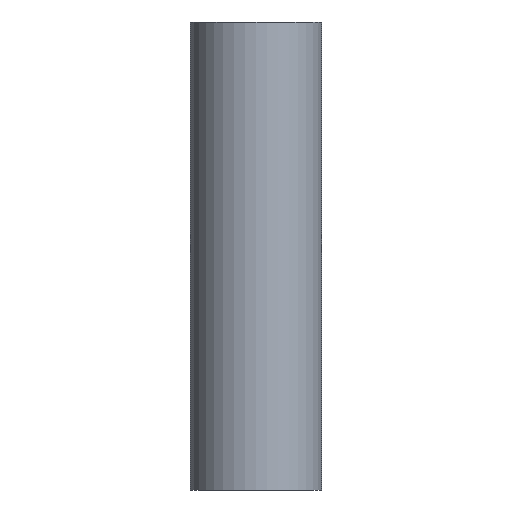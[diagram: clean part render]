
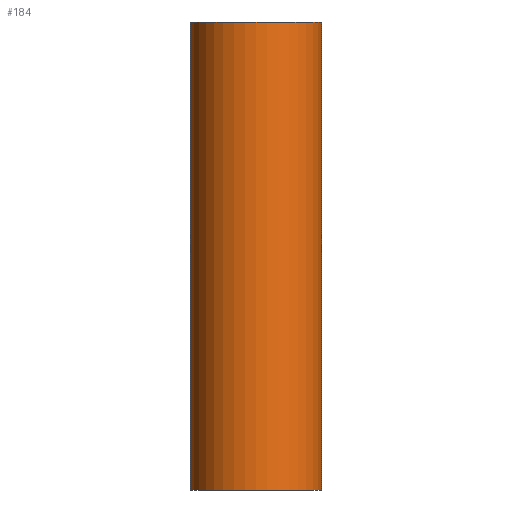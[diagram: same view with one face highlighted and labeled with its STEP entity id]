
A CAD part, front view. The second image highlights one B-rep face of the part: STEP entity #184.
In plain terms, the highlighted cylindrical face has radius 14 mm (diameter 28 mm), a partial arc.
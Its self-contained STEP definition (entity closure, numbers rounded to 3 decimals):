
#1 = EDGE_CURVE ( 'NONE', #347, #356, #232, .T. ) ;
#6 = DIRECTION ( 'NONE',  ( 0., 0., -1. ) ) ;
#29 = ORIENTED_EDGE ( 'NONE', *, *, #138, .F. ) ;
#31 = CARTESIAN_POINT ( 'NONE',  ( 0., 0., 0. ) ) ;
#38 = CIRCLE ( 'NONE', #73, 14. ) ;
#50 = EDGE_CURVE ( 'NONE', #351, #347, #371, .T. ) ;
#65 = VECTOR ( 'NONE', #85, 1000. ) ;
#73 = AXIS2_PLACEMENT_3D ( 'NONE', #121, #182, #180 ) ;
#85 = DIRECTION ( 'NONE',  ( 0., 0., -1. ) ) ;
#86 = EDGE_CURVE ( 'NONE', #342, #356, #312, .T. ) ;
#109 = EDGE_LOOP ( 'NONE', ( #162, #29, #289, #308 ) ) ;
#121 = CARTESIAN_POINT ( 'NONE',  ( 0., 0., 100. ) ) ;
#138 = EDGE_CURVE ( 'NONE', #351, #342, #38, .T. ) ;
#141 = DIRECTION ( 'NONE',  ( 0., 0., -1. ) ) ;
#153 = CARTESIAN_POINT ( 'NONE',  ( 14., 0., 0. ) ) ;
#162 = ORIENTED_EDGE ( 'NONE', *, *, #86, .F. ) ;
#165 = FACE_OUTER_BOUND ( 'NONE', #109, .T. ) ;
#173 = CARTESIAN_POINT ( 'NONE',  ( -14., 0., 100. ) ) ;
#179 = DIRECTION ( 'NONE',  ( -1., 0., 0. ) ) ;
#180 = DIRECTION ( 'NONE',  ( 1., 0., 0. ) ) ;
#182 = DIRECTION ( 'NONE',  ( 0., 0., 1. ) ) ;
#184 = ADVANCED_FACE ( 'NONE', ( #165 ), #228, .T. ) ;
#228 = CYLINDRICAL_SURFACE ( 'NONE', #368, 14. ) ;
#229 = AXIS2_PLACEMENT_3D ( 'NONE', #31, #234, #350 ) ;
#232 = CIRCLE ( 'NONE', #229, 14. ) ;
#234 = DIRECTION ( 'NONE',  ( 0., 0., 1. ) ) ;
#289 = ORIENTED_EDGE ( 'NONE', *, *, #50, .T. ) ;
#297 = CARTESIAN_POINT ( 'NONE',  ( -14., 0., 0. ) ) ;
#308 = ORIENTED_EDGE ( 'NONE', *, *, #1, .T. ) ;
#312 = LINE ( 'NONE', #317, #65 ) ;
#317 = CARTESIAN_POINT ( 'NONE',  ( 14., 0., 100. ) ) ;
#329 = CARTESIAN_POINT ( 'NONE',  ( -14., 0., 100. ) ) ;
#332 = CARTESIAN_POINT ( 'NONE',  ( 14., 0., 100. ) ) ;
#339 = VECTOR ( 'NONE', #141, 1000. ) ;
#342 = VERTEX_POINT ( 'NONE', #332 ) ;
#347 = VERTEX_POINT ( 'NONE', #297 ) ;
#350 = DIRECTION ( 'NONE',  ( 1., 0., 0. ) ) ;
#351 = VERTEX_POINT ( 'NONE', #329 ) ;
#356 = VERTEX_POINT ( 'NONE', #153 ) ;
#361 = CARTESIAN_POINT ( 'NONE',  ( 0., 0., 100. ) ) ;
#368 = AXIS2_PLACEMENT_3D ( 'NONE', #361, #6, #179 ) ;
#371 = LINE ( 'NONE', #173, #339 ) ;
